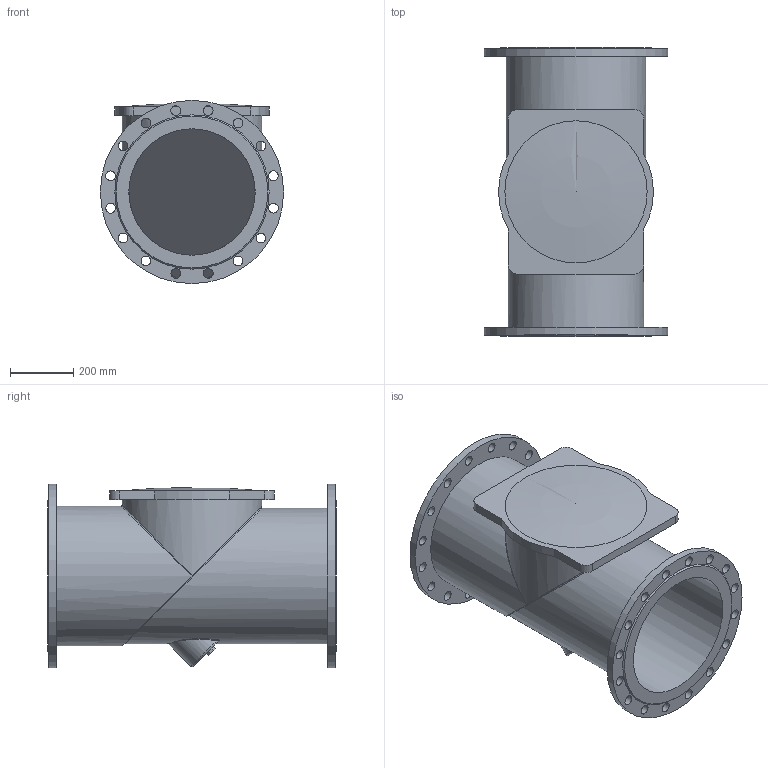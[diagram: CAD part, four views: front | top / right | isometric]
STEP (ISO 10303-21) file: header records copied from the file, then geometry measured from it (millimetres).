
FILE_DESCRIPTION(('STEP AP203'), '1');
FILE_NAME('Êëàïàí îäíîñòâîð÷àòûé îáðàòíûé ôëàíöåâûé 015F.Z DN400 PN16', '', ('UNSPECIFIED'), ('UNSPECIFIED'), 'ASCON STEP Converter 1.6', 'ASCON Math Kernel', '');
FILE_SCHEMA(('CONFIG_CONTROL_DESIGN'));
Length unit declared in the file: millimetre
Bounding box: 580 x 914 x 580 mm (x, y, z)
Volume: 41176281.5 mm3; surface area: 3692525.8 mm2
Topology: 1 solids, 2 shells, 86 faces, 207 edges, 134 vertices
Faces by surface type: cylinder 49, plane 27, bspline 6, cone 2, torus 1, sphere 1
Full cylindrical faces by diameter (mm): 31 x32, 400 x2, 415 x1, 428 x1, 443 x2, 580 x2
Entity records: 4698 total; most frequent: CARTESIAN_POINT 2011, DIRECTION 394, ORIENTED_EDGE 320, EDGE_LOOP 205, AXIS2_PLACEMENT_3D 176, EDGE_CURVE 160, VERTEX_POINT 133, FACE_BOUND 120
